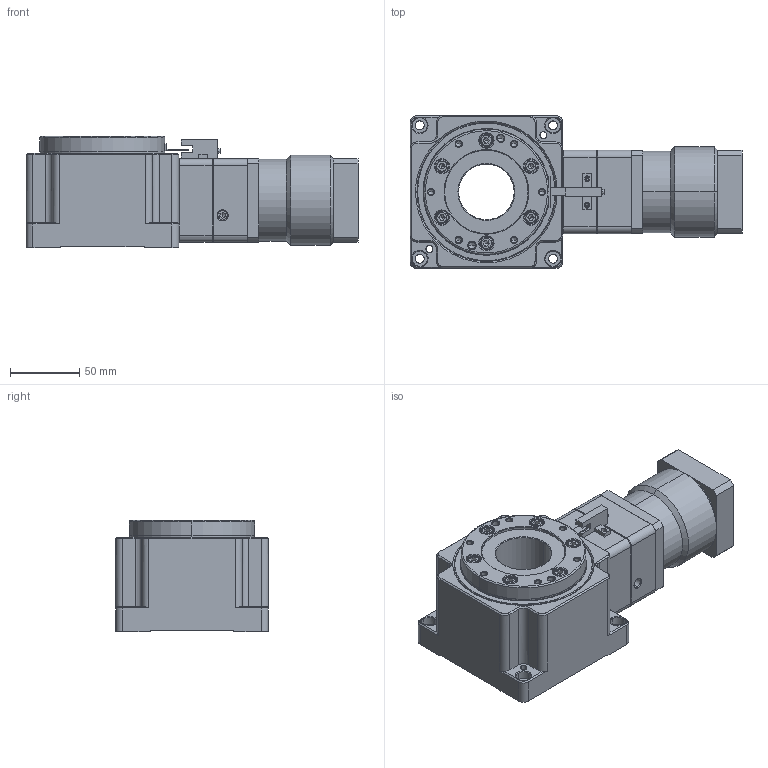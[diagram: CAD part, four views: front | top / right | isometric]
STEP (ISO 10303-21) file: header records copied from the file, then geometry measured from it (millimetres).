
FILE_DESCRIPTION (( 'STEP AP214' ), '1' );
FILE_NAME ('RT110-10-K 14K5-32-50-70-M5.STEP', '2025-12-23T07:54:02', ( '微软用户' ), ( '微软中国' ), 'SwSTEP 2.0', 'SolidWorks 2024', '' );
FILE_SCHEMA (( 'AUTOMOTIVE_DESIGN' ));
Length unit declared in the file: millimetre
Products named in the file (1): RT110-10-K 14K5-32-50-70-M5
Bounding box: 239 x 110 x 80 mm (x, y, z)
Volume: 1000672.4 mm3; surface area: 197924 mm2
Topology: 29 solids, 29 shells, 1678 faces, 3972 edges, 2326 vertices
Faces by surface type: plane 573, cylinder 526, cone 493, bspline 86
Entity records: 55254 total; most frequent: CARTESIAN_POINT 17321, DIRECTION 7967, ORIENTED_EDGE 7654, EDGE_CURVE 3827, AXIS2_PLACEMENT_3D 3033, VERTEX_POINT 2327, VECTOR 1901, LINE 1901
